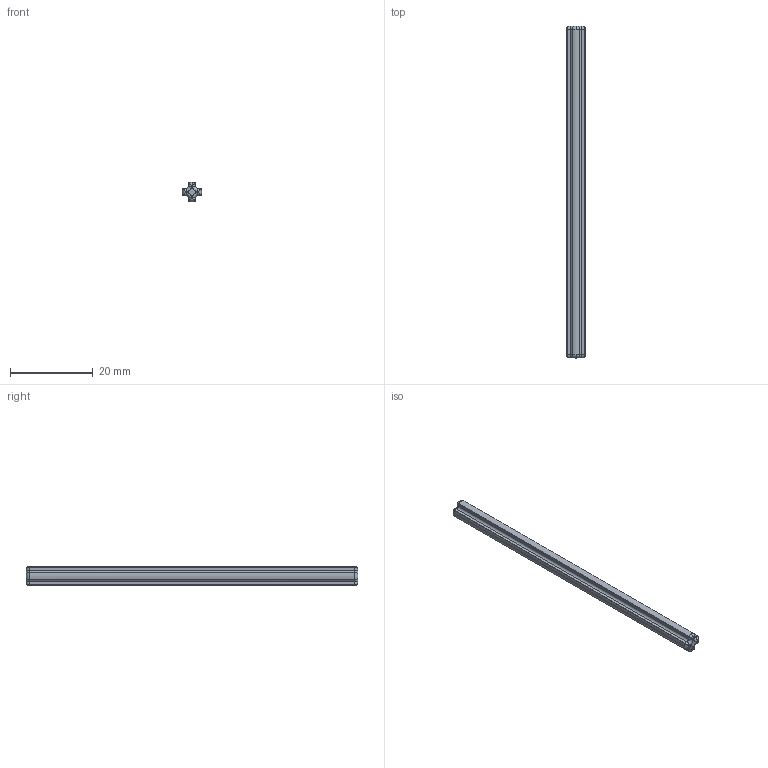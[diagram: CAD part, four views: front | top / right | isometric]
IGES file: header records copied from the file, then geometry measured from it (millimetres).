
Start section: C
Global section: file name: Black_373726_JCA.iges; native system: By Siemens PLM Incorporated; preprocessor: XPlus GENERIC/IGES 26.1.183; author: Author; organization: Title; date: 20250721.234320; units: millimetre
Bounding box: 4.8 x 80 x 4.8 mm (x, y, z)
Surface area: 1374.1 mm2 (no closed solid volume)
Topology: 0 solids, 0 shells, 77 faces, 338 edges, 322 vertices
Faces by surface type: bspline 77
